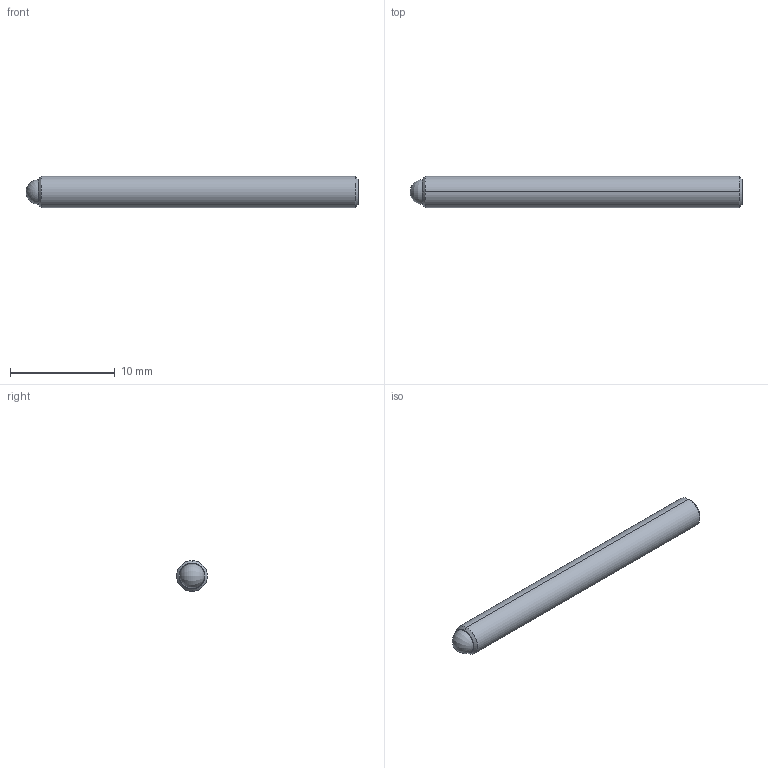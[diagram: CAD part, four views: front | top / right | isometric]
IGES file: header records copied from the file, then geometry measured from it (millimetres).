
Start section: SolidWorks IGES file using analytic representation for surfaces
Global section: file name: C:\Users\workpc\Desktop\KMA Solidworks\TS6-80 Series\TS6-80 SLDPRT\TS6-80-1250.IGS; native system: SolidWorks 2013; preprocessor: SolidWorks 2013; author: workpc; date: 140728.153253; units: inch
Bounding box: 31.75 x 2.97 x 2.97 mm (x, y, z)
Surface area: 338.7 mm2 (no closed solid volume)
Topology: 0 solids, 0 shells, 20 faces, 204 edges, 200 vertices
Faces by surface type: revolution 10, bspline 10
